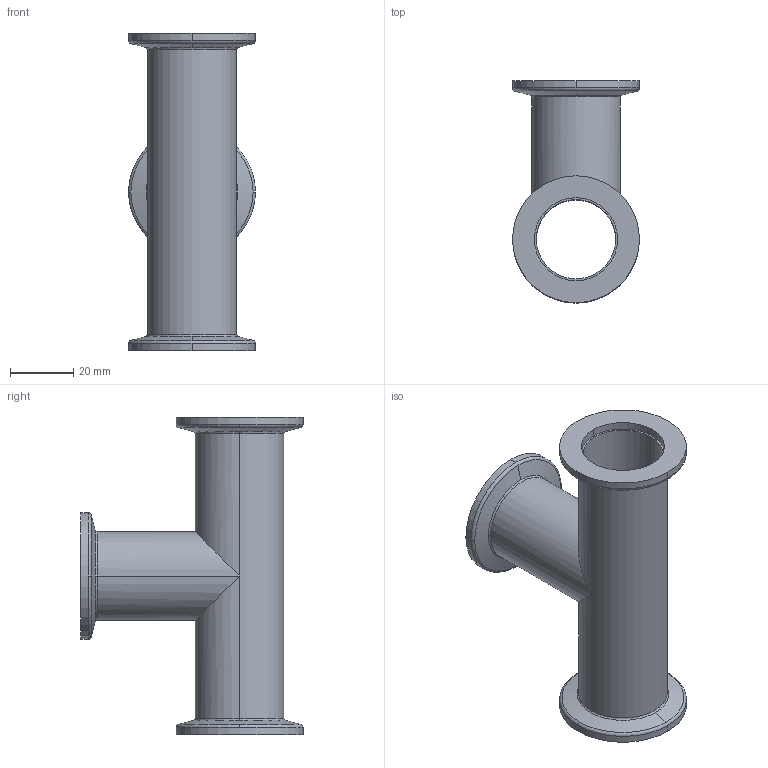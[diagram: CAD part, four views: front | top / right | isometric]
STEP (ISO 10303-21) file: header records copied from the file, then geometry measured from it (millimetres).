
FILE_DESCRIPTION((''),'2;1');
FILE_NAME('W:\211-293.stp','2003-10-10T11:15:58',('KAA'),(''),'Autodesk Inventor (R) 6.0','Autodesk Inventor (R) 6.0','');
FILE_SCHEMA(('CONFIG_CONTROL_DESIGN'));
Length unit declared in the file: millimetre
Products named in the file (1): 211-293
Bounding box: 40 x 70 x 100 mm (x, y, z)
Volume: 23452 mm3; surface area: 26267.2 mm2
Topology: 1 solids, 1 shells, 46 faces, 118 edges, 76 vertices
Faces by surface type: cylinder 22, torus 6, cone 6, bspline 6, plane 6
Entity records: 1789 total; most frequent: CARTESIAN_POINT 505, DIRECTION 288, ORIENTED_EDGE 236, AXIS2_PLACEMENT_3D 129, EDGE_CURVE 118, CIRCLE 84, VERTEX_POINT 76, EDGE_LOOP 52
